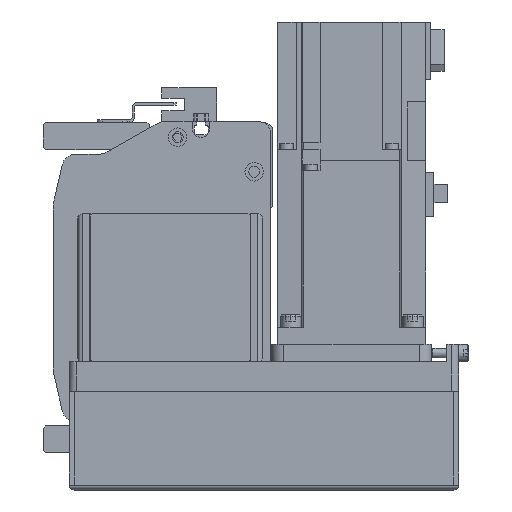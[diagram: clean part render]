
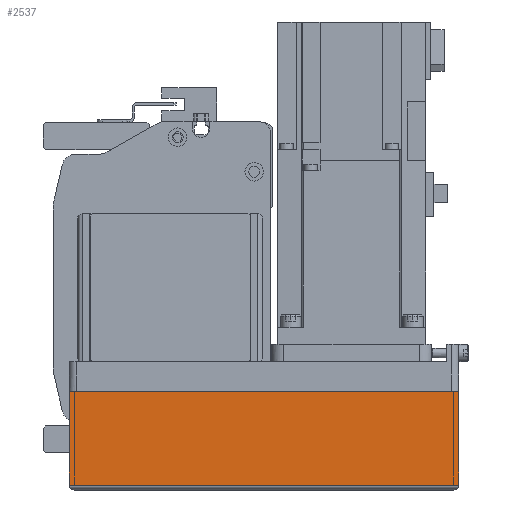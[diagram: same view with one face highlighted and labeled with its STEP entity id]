
A CAD part, left-side view. The second image highlights one B-rep face of the part: STEP entity #2537.
In plain terms, the highlighted planar face has unit normal (-1, 0, 0) as drawn and (0, 1, 0) by its records, which use the part's own axes.
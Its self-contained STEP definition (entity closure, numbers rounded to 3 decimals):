
#2537 = ADVANCED_FACE( '', ( #5492 ), #5493, .T. );
#5492 = FACE_OUTER_BOUND( '', #8872, .T. );
#5493 = PLANE( '', #8873 );
#8872 = EDGE_LOOP( '', ( #16076, #16077, #16078, #16079 ) );
#8873 = AXIS2_PLACEMENT_3D( '', #16080, #16081, #16082 );
#16076 = ORIENTED_EDGE( '', *, *, #22027, .F. );
#16077 = ORIENTED_EDGE( '', *, *, #22028, .F. );
#16078 = ORIENTED_EDGE( '', *, *, #22029, .T. );
#16079 = ORIENTED_EDGE( '', *, *, #22030, .T. );
#16080 = CARTESIAN_POINT( '', ( -158., 39., -50. ) );
#16081 = DIRECTION( '', ( 0., 1., 0. ) );
#16082 = DIRECTION( '', ( 0., 0., 1. ) );
#22027 = EDGE_CURVE( '', #23467, #27190, #27191, .T. );
#22028 = EDGE_CURVE( '', #24081, #23467, #27192, .T. );
#22029 = EDGE_CURVE( '', #24081, #27193, #27194, .T. );
#22030 = EDGE_CURVE( '', #27193, #27190, #27195, .T. );
#23467 = VERTEX_POINT( '', #29201 );
#24081 = VERTEX_POINT( '', #30111 );
#27190 = VERTEX_POINT( '', #34735 );
#27191 = LINE( '', #34736, #34737 );
#27192 = LINE( '', #34738, #34739 );
#27193 = VERTEX_POINT( '', #34740 );
#27194 = LINE( '', #34741, #34742 );
#27195 = LINE( '', #34743, #34744 );
#29201 = CARTESIAN_POINT( '', ( 0., 39., -50. ) );
#30111 = CARTESIAN_POINT( '', ( -158., 39., -50. ) );
#34735 = CARTESIAN_POINT( '', ( 0., 39., -12.1 ) );
#34736 = CARTESIAN_POINT( '', ( 0., 39., -50. ) );
#34737 = VECTOR( '', #39292, 1000. );
#34738 = CARTESIAN_POINT( '', ( -158., 39., -50. ) );
#34739 = VECTOR( '', #39293, 1000. );
#34740 = CARTESIAN_POINT( '', ( -158., 39., -12.1 ) );
#34741 = CARTESIAN_POINT( '', ( -158., 39., -50. ) );
#34742 = VECTOR( '', #39294, 1000. );
#34743 = CARTESIAN_POINT( '', ( -158., 39., -12.1 ) );
#34744 = VECTOR( '', #39295, 1000. );
#39292 = DIRECTION( '', ( 0., 0., 1. ) );
#39293 = DIRECTION( '', ( 1., 0., 0. ) );
#39294 = DIRECTION( '', ( 0., 0., 1. ) );
#39295 = DIRECTION( '', ( 1., 0., 0. ) );
